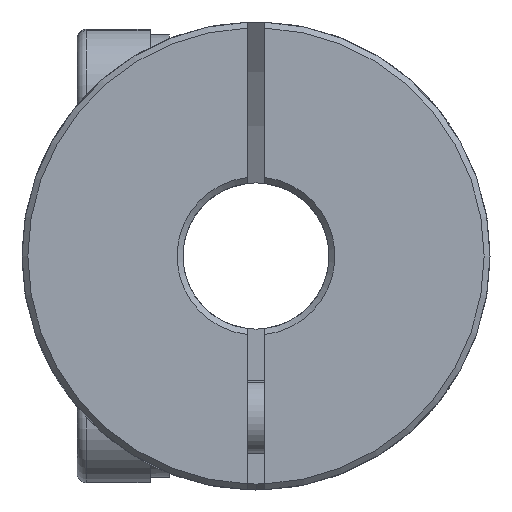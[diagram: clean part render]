
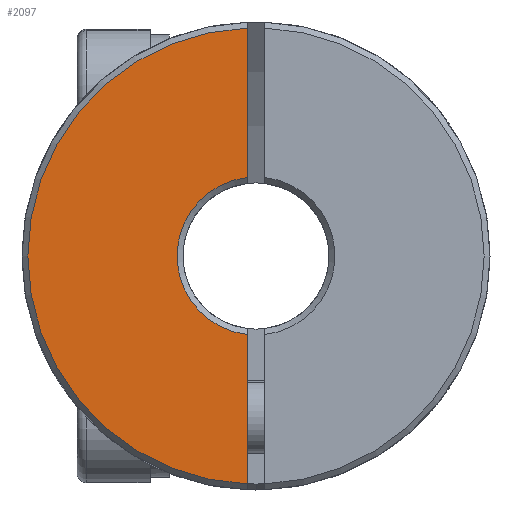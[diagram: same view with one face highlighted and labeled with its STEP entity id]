
A CAD part, front view. The second image highlights one B-rep face of the part: STEP entity #2097.
In plain terms, the highlighted planar face has unit normal (0, -1, 0).
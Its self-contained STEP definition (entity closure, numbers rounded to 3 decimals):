
#282 = DIRECTION ( 'NONE',  ( 0., 1., 0. ) ) ;
#711 = FACE_OUTER_BOUND ( 'NONE', #5323, .T. ) ;
#1177 = CARTESIAN_POINT ( 'NONE',  ( -0.3, -15.02, -7.794 ) ) ;
#1518 = CARTESIAN_POINT ( 'NONE',  ( -0.3, -15.02, 0. ) ) ;
#1519 = AXIS2_PLACEMENT_3D ( 'NONE', #2613, #282, #5511 ) ;
#1535 = VERTEX_POINT ( 'NONE', #2628 ) ;
#1649 = VERTEX_POINT ( 'NONE', #7412 ) ;
#1783 = VERTEX_POINT ( 'NONE', #1177 ) ;
#1836 = ORIENTED_EDGE ( 'NONE', *, *, #7269, .T. ) ;
#2018 = VECTOR ( 'NONE', #5903, 1000. ) ;
#2097 = ADVANCED_FACE ( 'NONE', ( #711 ), #5849, .F. ) ;
#2266 = CARTESIAN_POINT ( 'NONE',  ( 0., -15.02, 0. ) ) ;
#2288 = DIRECTION ( 'NONE',  ( 0., 0., 1. ) ) ;
#2613 = CARTESIAN_POINT ( 'NONE',  ( 0., -15.02, 0. ) ) ;
#2628 = CARTESIAN_POINT ( 'NONE',  ( -0.3, -15.02, -2.683 ) ) ;
#2695 = ORIENTED_EDGE ( 'NONE', *, *, #7166, .F. ) ;
#2810 = DIRECTION ( 'NONE',  ( 0., -1., 0. ) ) ;
#2866 = DIRECTION ( 'NONE',  ( 0., 1., 0. ) ) ;
#3267 = CIRCLE ( 'NONE', #5807, 7.8 ) ;
#3425 = DIRECTION ( 'NONE',  ( 0., 0., 1. ) ) ;
#3933 = VECTOR ( 'NONE', #5738, 1000. ) ;
#4099 = CARTESIAN_POINT ( 'NONE',  ( -0.3, -15.02, 0. ) ) ;
#4139 = EDGE_CURVE ( 'NONE', #7629, #1783, #3267, .T. ) ;
#4720 = CIRCLE ( 'NONE', #1519, 2.7 ) ;
#5004 = EDGE_CURVE ( 'NONE', #1535, #1783, #6990, .T. ) ;
#5323 = EDGE_LOOP ( 'NONE', ( #2695, #6992, #7338, #1836 ) ) ;
#5511 = DIRECTION ( 'NONE',  ( 0., 0., 1. ) ) ;
#5738 = DIRECTION ( 'NONE',  ( 0., 0., -1. ) ) ;
#5807 = AXIS2_PLACEMENT_3D ( 'NONE', #5870, #2810, #3425 ) ;
#5849 = PLANE ( 'NONE',  #7569 ) ;
#5870 = CARTESIAN_POINT ( 'NONE',  ( 0., -15.02, 0. ) ) ;
#5903 = DIRECTION ( 'NONE',  ( 0., 0., -1. ) ) ;
#6309 = LINE ( 'NONE', #4099, #2018 ) ;
#6990 = LINE ( 'NONE', #1518, #3933 ) ;
#6992 = ORIENTED_EDGE ( 'NONE', *, *, #4139, .T. ) ;
#7122 = CARTESIAN_POINT ( 'NONE',  ( -0.3, -15.02, 7.794 ) ) ;
#7166 = EDGE_CURVE ( 'NONE', #7629, #1649, #6309, .T. ) ;
#7269 = EDGE_CURVE ( 'NONE', #1535, #1649, #4720, .T. ) ;
#7338 = ORIENTED_EDGE ( 'NONE', *, *, #5004, .F. ) ;
#7412 = CARTESIAN_POINT ( 'NONE',  ( -0.3, -15.02, 2.683 ) ) ;
#7569 = AXIS2_PLACEMENT_3D ( 'NONE', #2266, #2866, #2288 ) ;
#7629 = VERTEX_POINT ( 'NONE', #7122 ) ;
